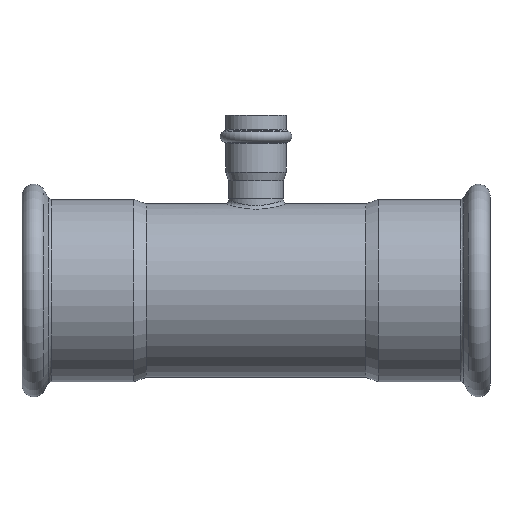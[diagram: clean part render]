
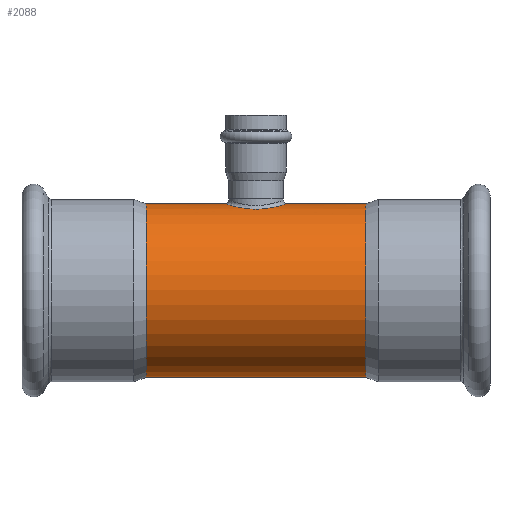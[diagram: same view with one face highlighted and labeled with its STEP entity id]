
A CAD part, top view. The second image highlights one B-rep face of the part: STEP entity #2088.
In plain terms, the highlighted cylindrical face has radius 44.45 mm (diameter 88.9 mm), a full revolution.
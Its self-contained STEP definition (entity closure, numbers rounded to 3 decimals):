
#1875=CARTESIAN_POINT('',(0.,41.73,15.311));
#1876=VERTEX_POINT('',#1875);
#1961=CARTESIAN_POINT('',(0.,41.73,15.311));
#1962=CARTESIAN_POINT('',(0.6,41.73,15.311));
#1963=CARTESIAN_POINT('',(1.352,41.745,15.271));
#1964=CARTESIAN_POINT('',(2.545,41.798,15.125));
#1965=CARTESIAN_POINT('',(3.723,41.873,14.916));
#1966=CARTESIAN_POINT('',(5.313,42.028,14.477));
#1967=CARTESIAN_POINT('',(6.843,42.233,13.868));
#1968=CARTESIAN_POINT('',(7.898,42.406,13.326));
#1969=CARTESIAN_POINT('',(8.722,42.555,12.844));
#1970=CARTESIAN_POINT('',(9.334,42.673,12.446));
#1971=CARTESIAN_POINT('',(10.279,42.87,11.754));
#1972=CARTESIAN_POINT('',(11.225,43.086,10.946));
#1973=CARTESIAN_POINT('',(12.032,43.288,10.105));
#1974=CARTESIAN_POINT('',(12.725,43.469,9.298));
#1975=CARTESIAN_POINT('',(13.276,43.619,8.571));
#1976=CARTESIAN_POINT('',(14.109,43.857,7.281));
#1977=CARTESIAN_POINT('',(14.94,44.108,5.639));
#1978=CARTESIAN_POINT('',(15.591,44.316,3.632));
#1979=CARTESIAN_POINT('',(15.863,44.405,2.115));
#1980=CARTESIAN_POINT('',(16.015,44.455,0.582));
#1981=CARTESIAN_POINT('',(16.016,44.455,-1.144));
#1982=CARTESIAN_POINT('',(15.729,44.361,-2.96));
#1983=CARTESIAN_POINT('',(15.378,44.248,-4.256));
#1984=CARTESIAN_POINT('',(15.136,44.172,-4.982));
#1985=CARTESIAN_POINT('',(14.822,44.074,-5.789));
#1986=CARTESIAN_POINT('',(14.42,43.951,-6.666));
#1987=CARTESIAN_POINT('',(13.765,43.757,-7.85));
#1988=CARTESIAN_POINT('',(13.052,43.557,-8.888));
#1989=CARTESIAN_POINT('',(12.322,43.363,-9.779));
#1990=CARTESIAN_POINT('',(11.67,43.197,-10.49));
#1991=CARTESIAN_POINT('',(10.618,42.943,-11.498));
#1992=CARTESIAN_POINT('',(9.292,42.658,-12.511));
#1993=CARTESIAN_POINT('',(7.944,42.413,-13.307));
#1994=CARTESIAN_POINT('',(6.536,42.188,-14.007));
#1995=CARTESIAN_POINT('',(4.756,41.958,-14.68));
#1996=CARTESIAN_POINT('',(2.939,41.815,-15.078));
#1997=CARTESIAN_POINT('',(1.75,41.762,-15.223));
#1998=CARTESIAN_POINT('',(0.951,41.737,-15.291));
#1999=CARTESIAN_POINT('',(-0.003,41.724,-15.326));
#2000=CARTESIAN_POINT('',(-1.209,41.741,-15.282));
#2001=CARTESIAN_POINT('',(-2.797,41.803,-15.109));
#2002=CARTESIAN_POINT('',(-4.764,41.959,-14.678));
#2003=CARTESIAN_POINT('',(-6.49,42.182,-14.024));
#2004=CARTESIAN_POINT('',(-7.546,42.349,-13.506));
#2005=CARTESIAN_POINT('',(-8.238,42.466,-13.134));
#2006=CARTESIAN_POINT('',(-9.374,42.675,-12.449));
#2007=CARTESIAN_POINT('',(-10.622,42.944,-11.494));
#2008=CARTESIAN_POINT('',(-11.744,43.214,-10.419));
#2009=CARTESIAN_POINT('',(-12.772,43.479,-9.276));
#2010=CARTESIAN_POINT('',(-13.749,43.752,-7.91));
#2011=CARTESIAN_POINT('',(-14.464,43.965,-6.578));
#2012=CARTESIAN_POINT('',(-14.881,44.092,-5.643));
#2013=CARTESIAN_POINT('',(-15.248,44.207,-4.691));
#2014=CARTESIAN_POINT('',(-15.694,44.349,-3.183));
#2015=CARTESIAN_POINT('',(-15.955,44.435,-1.528));
#2016=CARTESIAN_POINT('',(-16.015,44.455,0.003));
#2017=CARTESIAN_POINT('',(-15.973,44.441,1.061));
#2018=CARTESIAN_POINT('',(-15.89,44.414,1.826));
#2019=CARTESIAN_POINT('',(-15.748,44.367,2.778));
#2020=CARTESIAN_POINT('',(-15.482,44.281,3.992));
#2021=CARTESIAN_POINT('',(-14.961,44.116,5.497));
#2022=CARTESIAN_POINT('',(-14.391,43.943,6.725));
#2023=CARTESIAN_POINT('',(-13.633,43.719,8.073));
#2024=CARTESIAN_POINT('',(-12.322,43.353,9.907));
#2025=CARTESIAN_POINT('',(-10.583,42.927,11.569));
#2026=CARTESIAN_POINT('',(-8.665,42.538,12.909));
#2027=CARTESIAN_POINT('',(-7.116,42.27,13.759));
#2028=CARTESIAN_POINT('',(-5.312,42.028,14.477));
#2029=CARTESIAN_POINT('',(-3.015,41.803,15.113));
#2030=CARTESIAN_POINT('',(-1.2,41.729,15.312));
#2031=CARTESIAN_POINT('',(0.,41.73,15.311));
#2032=B_SPLINE_CURVE_WITH_KNOTS('',3,(#1961,#1962,#1963,#1964,#1965,#1966,#1967,#1968,#1969,#1970,#1971,#1972,#1973,#1974,#1975,#1976,#1977,#1978,#1979,#1980,#1981,#1982,#1983,#1984,#1985,#1986,#1987,#1988,#1989,#1990,#1991,#1992,#1993,#1994,#1995,#1996,#1997,#1998,#1999,#2000,#2001,#2002,#2003,#2004,#2005,#2006,#2007,#2008,#2009,#2010,#2011,#2012,#2013,#2014,#2015,#2016,#2017,#2018,#2019,#2020,#2021,#2022,#2023,#2024,#2025,#2026,#2027,#2028,#2029,#2030,#2031),.UNSPECIFIED.,.T.,.U.,(4,1,1,1,1,1,1,1,1,1,1,1,1,1,1,1,1,1,1,1,1,1,1,1,1,1,1,1,1,1,1,1,1,1,1,1,1,1,1,1,1,1,1,1,1,1,1,1,1,1,1,1,1,1,1,1,1,1,1,1,1,1,1,1,1,1,1,1,4),(-8.501,-8.349,-8.311,-8.197,-8.045,-7.893,-7.78,-7.742,-7.647,-7.59,-7.438,-7.324,-7.286,-7.16,-7.084,-6.881,-6.679,-6.527,-6.477,-6.274,-6.072,-5.996,-5.92,-5.869,-5.768,-5.667,-5.515,-5.439,-5.364,-5.262,-5.06,-4.933,-4.858,-4.655,-4.453,-4.389,-4.352,-4.25,-4.149,-4.048,-3.846,-3.643,-3.58,-3.542,-3.441,-3.238,-3.137,-3.036,-2.834,-2.699,-2.64,-2.564,-2.429,-2.226,-2.125,-2.024,-1.948,-1.923,-1.771,-1.619,-1.505,-1.417,-1.214,-0.911,-0.797,-0.607,-0.455,-0.304,0.0),.UNSPECIFIED.);
#2033=EDGE_CURVE('',#1876,#1876,#2032,.T.);
#2058=CARTESIAN_POINT('',(0.,0.,0.0));
#2059=DIRECTION('',(1.0,0.,0.0));
#2060=DIRECTION('',(0.0,1.0,0.0));
#2061=AXIS2_PLACEMENT_3D('',#2058,#2059,#2060);
#2062=CYLINDRICAL_SURFACE('',#2061,44.45);
#2063=CARTESIAN_POINT('',(-56.328,44.45,0.0));
#2064=VERTEX_POINT('',#2063);
#2065=CARTESIAN_POINT('',(-56.328,0.,0.0));
#2066=DIRECTION('',(1.0,0.0,0.0));
#2067=DIRECTION('',(0.0,1.0,0.0));
#2068=AXIS2_PLACEMENT_3D('',#2065,#2066,#2067);
#2069=CIRCLE('',#2068,44.45);
#2070=EDGE_CURVE('',#2064,#2064,#2069,.T.);
#2071=ORIENTED_EDGE('',*,*,#2070,.T.);
#2072=EDGE_LOOP('',(#2071));
#2073=FACE_OUTER_BOUND('',#2072,.T.);
#2074=CARTESIAN_POINT('',(56.328,44.45,0.0));
#2075=VERTEX_POINT('',#2074);
#2076=CARTESIAN_POINT('',(56.328,0.,0.0));
#2077=DIRECTION('',(1.0,0.0,0.0));
#2078=DIRECTION('',(0.0,1.0,0.0));
#2079=AXIS2_PLACEMENT_3D('',#2076,#2077,#2078);
#2080=CIRCLE('',#2079,44.45);
#2081=EDGE_CURVE('',#2075,#2075,#2080,.T.);
#2082=ORIENTED_EDGE('',*,*,#2081,.F.);
#2083=EDGE_LOOP('',(#2082));
#2084=FACE_BOUND('',#2083,.T.);
#2085=ORIENTED_EDGE('',*,*,#2033,.F.);
#2086=EDGE_LOOP('',(#2085));
#2087=FACE_BOUND('',#2086,.T.);
#2088=ADVANCED_FACE('',(#2073,#2084,#2087),#2062,.T.);
